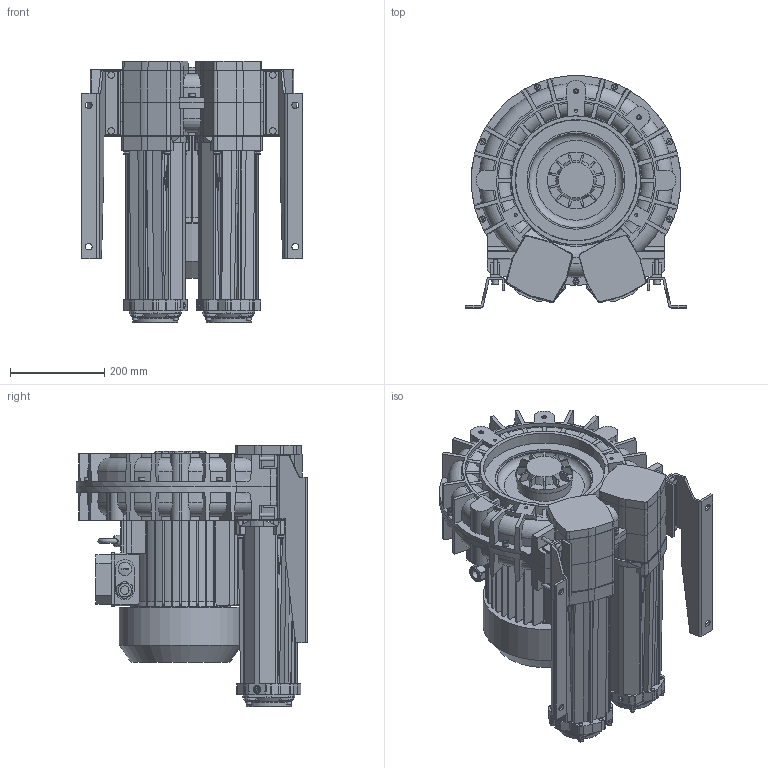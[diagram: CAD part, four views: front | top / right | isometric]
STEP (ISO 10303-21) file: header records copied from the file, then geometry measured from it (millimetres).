
FILE_DESCRIPTION (( 'STEP AP203' ), '1' );
FILE_NAME ('STP-L_e_07_MS_MOR_IE3WR_132_5.5kW-3_24-00.step', '2025-01-08T15:20:01', ( '' ), ( '' ), 'SwSTEP 2.0', 'SolidWorks 2024', '' );
FILE_SCHEMA (( 'CONFIG_CONTROL_DESIGN' ));
Length unit declared in the file: millimetre
Products named in the file (1): STP-L_e_07_MS_MOR_IE3WR_132_5.5kW-3_24-00
Bounding box: 468 x 491.32 x 553 mm (x, y, z)
Volume: 41390102.7 mm3; surface area: 2676036.8 mm2
Topology: 78 solids, 86 shells, 5466 faces, 14026 edges, 8756 vertices
Faces by surface type: plane 1878, cylinder 1803, bspline 846, torus 471, cone 427, sphere 41
Full cylindrical faces by diameter (mm): 5 x16, 6 x24, 6.4 x8, 6.8 x8, 7.5 x4, 8 x23, 8.4 x19, 8.5 x6, 8.566 x2, 8.8 x4, 9 x8, 9.5 x4, 9.98 x2, 10 x19, 12 x2, 12.02 x2, 13 x26, 14 x14, 16 x4, 16.5 x2, 18 x1, 19 x1, 20 x2, 21.4 x1, 24 x4, 25 x3, 28 x1, 85.3 x2, 108 x2, 115 x2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
Entity records: 238443 total; most frequent: CARTESIAN_POINT 116809, ORIENTED_EDGE 26582, DIRECTION 23402, EDGE_CURVE 13291, AXIS2_PLACEMENT_3D 9021, VERTEX_POINT 8541, EDGE_LOOP 6150, FACE_OUTER_BOUND 5776
